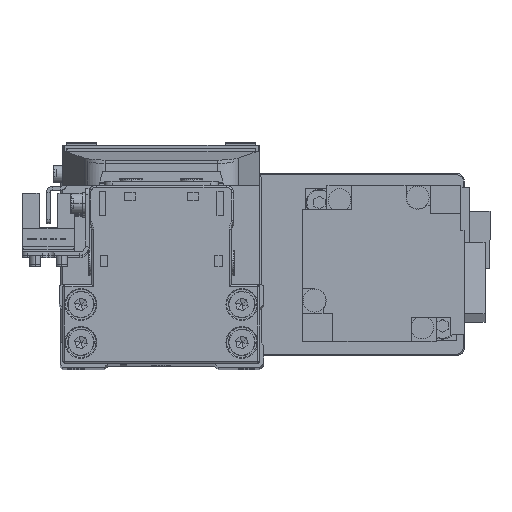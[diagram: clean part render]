
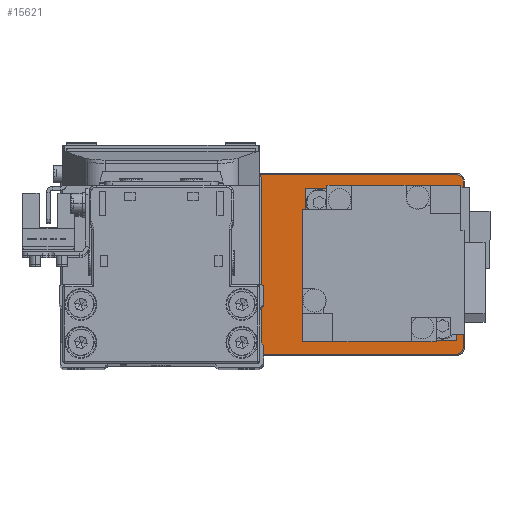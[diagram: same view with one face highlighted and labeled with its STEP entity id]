
A CAD part, top view. The second image highlights one B-rep face of the part: STEP entity #15621.
In plain terms, the highlighted planar face has unit normal (0, 0, 1).
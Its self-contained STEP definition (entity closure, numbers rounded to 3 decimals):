
#1532 = CARTESIAN_POINT ( 'NONE',  ( -51.7, -22., 5. ) ) ;
#2260 = VERTEX_POINT ( 'NONE', #31401 ) ;
#2849 = VERTEX_POINT ( 'NONE', #6287 ) ;
#3491 = VERTEX_POINT ( 'NONE', #26171 ) ;
#3537 = AXIS2_PLACEMENT_3D ( 'NONE', #32484, #4830, #17161 ) ;
#3925 = ORIENTED_EDGE ( 'NONE', *, *, #18427, .T. ) ;
#4284 = DIRECTION ( 'NONE',  ( -1., 0., 0. ) ) ;
#4830 = DIRECTION ( 'NONE',  ( 0., 0., -1. ) ) ;
#5150 = ORIENTED_EDGE ( 'NONE', *, *, #29438, .T. ) ;
#5184 = ORIENTED_EDGE ( 'NONE', *, *, #38811, .T. ) ;
#5748 = CIRCLE ( 'NONE', #28319, 10.3 ) ;
#5904 = CARTESIAN_POINT ( 'NONE',  ( 0., 0., 5. ) ) ;
#6005 = VECTOR ( 'NONE', #4284, 1000. ) ;
#6095 = EDGE_CURVE ( 'NONE', #29565, #23295, #38350, .T. ) ;
#6191 = CARTESIAN_POINT ( 'NONE',  ( 50., -23.7, 5. ) ) ;
#6287 = CARTESIAN_POINT ( 'NONE',  ( 50., -23.7, 5. ) ) ;
#7722 = CARTESIAN_POINT ( 'NONE',  ( -50., -22., 5. ) ) ;
#8190 = CARTESIAN_POINT ( 'NONE',  ( -51.7, -22., 5. ) ) ;
#8382 = DIRECTION ( 'NONE',  ( 0., 0., 1. ) ) ;
#8511 = CARTESIAN_POINT ( 'NONE',  ( 50., 22., 5. ) ) ;
#8954 = FACE_BOUND ( 'NONE', #12851, .T. ) ;
#8967 = DIRECTION ( 'NONE',  ( 1., 0., 0. ) ) ;
#9437 = CIRCLE ( 'NONE', #32004, 10.3 ) ;
#9526 = EDGE_CURVE ( 'NONE', #3491, #34149, #15670, .T. ) ;
#9531 = CARTESIAN_POINT ( 'NONE',  ( 51.7, -22., 5. ) ) ;
#10500 = CARTESIAN_POINT ( 'NONE',  ( -28., 0., 5. ) ) ;
#10564 = EDGE_CURVE ( 'NONE', #23295, #29565, #34305, .T. ) ;
#10873 = ORIENTED_EDGE ( 'NONE', *, *, #6095, .T. ) ;
#11436 = DIRECTION ( 'NONE',  ( 0., 1., 0. ) ) ;
#12409 = CARTESIAN_POINT ( 'NONE',  ( 42.8, 0., 5. ) ) ;
#12753 = CARTESIAN_POINT ( 'NONE',  ( 30., 0., 5. ) ) ;
#12851 = EDGE_LOOP ( 'NONE', ( #37677, #32149 ) ) ;
#13495 = VECTOR ( 'NONE', #13860, 1000. ) ;
#13840 = ORIENTED_EDGE ( 'NONE', *, *, #17178, .T. ) ;
#13860 = DIRECTION ( 'NONE',  ( 0., -1., 0. ) ) ;
#14138 = CARTESIAN_POINT ( 'NONE',  ( 50., -22., 5. ) ) ;
#14924 = VECTOR ( 'NONE', #11436, 1000. ) ;
#15243 = AXIS2_PLACEMENT_3D ( 'NONE', #14138, #26430, #38729 ) ;
#15621 = ADVANCED_FACE ( 'NONE', ( #36607, #8954, #21257 ), #33554, .T. ) ;
#15670 = CIRCLE ( 'NONE', #38223, 1.7 ) ;
#16017 = CARTESIAN_POINT ( 'NONE',  ( -50., -23.7, 5. ) ) ;
#17161 = DIRECTION ( 'NONE',  ( 1., 0., 0. ) ) ;
#17178 = EDGE_CURVE ( 'NONE', #26926, #36730, #35602, .T. ) ;
#18196 = AXIS2_PLACEMENT_3D ( 'NONE', #7722, #20035, #32341 ) ;
#18242 = DIRECTION ( 'NONE',  ( 0., 0., 1. ) ) ;
#18427 = EDGE_CURVE ( 'NONE', #36730, #2849, #33846, .T. ) ;
#18528 = DIRECTION ( 'NONE',  ( 1., 0., 0. ) ) ;
#18940 = ORIENTED_EDGE ( 'NONE', *, *, #29407, .T. ) ;
#19627 = LINE ( 'NONE', #31936, #6005 ) ;
#20035 = DIRECTION ( 'NONE',  ( 0., 0., 1. ) ) ;
#20090 = AXIS2_PLACEMENT_3D ( 'NONE', #36033, #8382, #20691 ) ;
#20691 = DIRECTION ( 'NONE',  ( 1., 0., 0. ) ) ;
#20833 = DIRECTION ( 'NONE',  ( 0., 0., 1. ) ) ;
#21257 = FACE_OUTER_BOUND ( 'NONE', #21378, .T. ) ;
#21378 = EDGE_LOOP ( 'NONE', ( #3925, #5184, #18940, #27111, #22714, #5150, #37229, #13840 ) ) ;
#22100 = CARTESIAN_POINT ( 'NONE',  ( 17.2, 0., 5. ) ) ;
#22714 = ORIENTED_EDGE ( 'NONE', *, *, #32872, .T. ) ;
#22812 = DIRECTION ( 'NONE',  ( 0., 0., -1. ) ) ;
#23295 = VERTEX_POINT ( 'NONE', #22100 ) ;
#23794 = EDGE_CURVE ( 'NONE', #2260, #36144, #9437, .T. ) ;
#24316 = CARTESIAN_POINT ( 'NONE',  ( -28., 0., 5. ) ) ;
#25049 = DIRECTION ( 'NONE',  ( 0., 0., -1. ) ) ;
#26171 = CARTESIAN_POINT ( 'NONE',  ( 51.7, 22., 5. ) ) ;
#26430 = DIRECTION ( 'NONE',  ( 0., 0., 1. ) ) ;
#26761 = LINE ( 'NONE', #39067, #14924 ) ;
#26827 = EDGE_CURVE ( 'NONE', #36189, #26926, #29172, .T. ) ;
#26926 = VERTEX_POINT ( 'NONE', #8190 ) ;
#27025 = EDGE_CURVE ( 'NONE', #36144, #2260, #5748, .T. ) ;
#27098 = ORIENTED_EDGE ( 'NONE', *, *, #10564, .T. ) ;
#27111 = ORIENTED_EDGE ( 'NONE', *, *, #9526, .T. ) ;
#27409 = CARTESIAN_POINT ( 'NONE',  ( -51.7, 22., 5. ) ) ;
#28319 = AXIS2_PLACEMENT_3D ( 'NONE', #24316, #36618, #8967 ) ;
#29172 = LINE ( 'NONE', #1532, #13495 ) ;
#29407 = EDGE_CURVE ( 'NONE', #34352, #3491, #26761, .T. ) ;
#29438 = EDGE_CURVE ( 'NONE', #39408, #36189, #37458, .T. ) ;
#29565 = VERTEX_POINT ( 'NONE', #12409 ) ;
#30551 = DIRECTION ( 'NONE',  ( 1., 0., 0. ) ) ;
#31401 = CARTESIAN_POINT ( 'NONE',  ( -38.3, 0., 5. ) ) ;
#31936 = CARTESIAN_POINT ( 'NONE',  ( -50., 23.7, 5. ) ) ;
#32004 = AXIS2_PLACEMENT_3D ( 'NONE', #10500, #22812, #35122 ) ;
#32149 = ORIENTED_EDGE ( 'NONE', *, *, #23794, .T. ) ;
#32341 = DIRECTION ( 'NONE',  ( 1., 0., 0. ) ) ;
#32484 = CARTESIAN_POINT ( 'NONE',  ( 30., 0., 5. ) ) ;
#32638 = CIRCLE ( 'NONE', #15243, 1.7 ) ;
#32872 = EDGE_CURVE ( 'NONE', #34149, #39408, #19627, .T. ) ;
#33093 = EDGE_LOOP ( 'NONE', ( #10873, #27098 ) ) ;
#33138 = DIRECTION ( 'NONE',  ( 1., 0., 0. ) ) ;
#33554 = PLANE ( 'NONE',  #34829 ) ;
#33623 = CARTESIAN_POINT ( 'NONE',  ( -50., 23.7, 5. ) ) ;
#33846 = LINE ( 'NONE', #6191, #38145 ) ;
#34149 = VERTEX_POINT ( 'NONE', #34561 ) ;
#34305 = CIRCLE ( 'NONE', #39465, 12.8 ) ;
#34352 = VERTEX_POINT ( 'NONE', #9531 ) ;
#34561 = CARTESIAN_POINT ( 'NONE',  ( 50., 23.7, 5. ) ) ;
#34829 = AXIS2_PLACEMENT_3D ( 'NONE', #5904, #18242, #30551 ) ;
#35122 = DIRECTION ( 'NONE',  ( 1., 0., 0. ) ) ;
#35602 = CIRCLE ( 'NONE', #18196, 1.7 ) ;
#36033 = CARTESIAN_POINT ( 'NONE',  ( -50., 22., 5. ) ) ;
#36144 = VERTEX_POINT ( 'NONE', #39292 ) ;
#36189 = VERTEX_POINT ( 'NONE', #27409 ) ;
#36607 = FACE_BOUND ( 'NONE', #33093, .T. ) ;
#36618 = DIRECTION ( 'NONE',  ( 0., 0., -1. ) ) ;
#36730 = VERTEX_POINT ( 'NONE', #16017 ) ;
#37229 = ORIENTED_EDGE ( 'NONE', *, *, #26827, .T. ) ;
#37339 = DIRECTION ( 'NONE',  ( 1., 0., 0. ) ) ;
#37458 = CIRCLE ( 'NONE', #20090, 1.7 ) ;
#37677 = ORIENTED_EDGE ( 'NONE', *, *, #27025, .T. ) ;
#38145 = VECTOR ( 'NONE', #18528, 1000. ) ;
#38223 = AXIS2_PLACEMENT_3D ( 'NONE', #8511, #20833, #33138 ) ;
#38350 = CIRCLE ( 'NONE', #3537, 12.8 ) ;
#38729 = DIRECTION ( 'NONE',  ( 1., 0., 0. ) ) ;
#38811 = EDGE_CURVE ( 'NONE', #2849, #34352, #32638, .T. ) ;
#39067 = CARTESIAN_POINT ( 'NONE',  ( 51.7, 22., 5. ) ) ;
#39292 = CARTESIAN_POINT ( 'NONE',  ( -17.7, 0., 5. ) ) ;
#39408 = VERTEX_POINT ( 'NONE', #33623 ) ;
#39465 = AXIS2_PLACEMENT_3D ( 'NONE', #12753, #25049, #37339 ) ;
